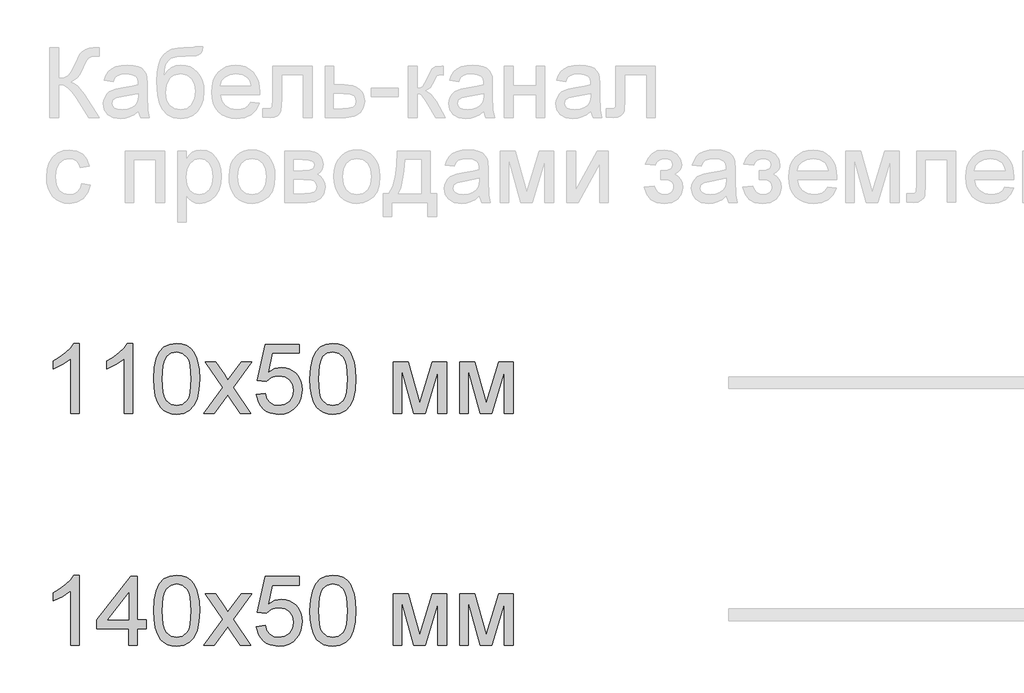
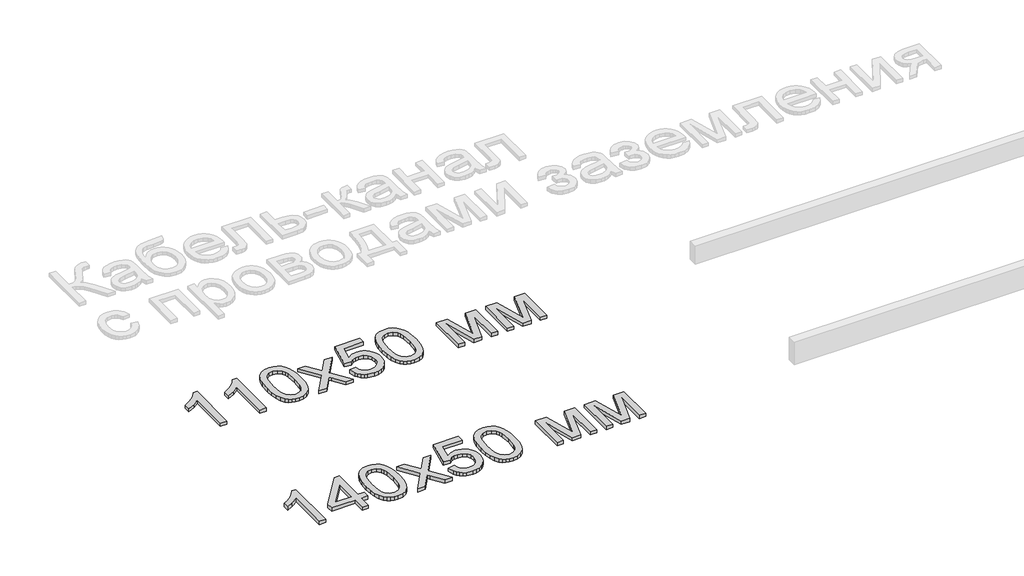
# One storey, part 80 of 168: 2 proxies.
"""IFC4 building model written with IfcOpenShell, lengths in millimetres."""

from ifc_helpers import new_model, si_unit, origin, origin_with_axes, place, context, project, spatial, polyline, outline, extrude, element, save

model = new_model("IFC4")

# Units and contexts
model_context = context("Model", 3, world=origin())
ifc_project = project(units=[si_unit("LENGTHUNIT", "METRE", prefix="MILLI")], contexts=[model_context])

# Site, building, storey
site = spatial("IfcSite", under=ifc_project)
building = spatial("IfcBuilding", under=site)
storey = spatial("IfcBuildingStorey", under=building, Name="Этаж 01", Elevation=0.0)

# Proxies
placement = place(None, origin())
element("IfcBuildingElementProxy", 1, Name="300 мм Arial 2", ObjectType="300 мм Arial 2", at=placement, inside=storey, context=model_context, shape_type="SweptSolid", body=[
    extrude(outline(polyline([(905.9577491, -22423.4056816), (868.2866328, -22423.4056816), (868.2866328, -22188.5498158), (832.6020793, -22213.9704617), (792.9444002, -22232.9899609), (792.9444002, -22197.3789837), (822.5313096, -22181.2841464), (848.1634877, -22162.1358886), (868.3694062, -22141.7736202), (881.6775374, -22122.0367511), (905.9577491, -22122.0367511), (905.9577491, -22423.4056816)])), origin_with_axes(), (0.0, 0.0, 1.0), 20.0),
    extrude(outline(polyline([(1136.6933365, -22423.4056816), (1099.0222202, -22423.4056816), (1099.0222202, -22188.5498158), (1063.3376666, -22213.9704617), (1023.6799876, -22232.9899609), (1023.6799876, -22197.3789837), (1053.266897, -22181.2841464), (1078.899075, -22162.1358886), (1099.1049936, -22141.7736202), (1112.4131248, -22122.0367511), (1136.6933365, -22122.0367511), (1136.6933365, -22423.4056816)])), origin_with_axes(), (0.0, 0.0, 1.0), 20.0),
    extrude(outline(polyline([(1226.1622377, -22275.1492375), (1228.9305497, -22226.9107109), (1237.2354858, -22188.4394512), (1250.9942724, -22159.1468474), (1270.1241361, -22138.4442881), (1294.7630327, -22126.1386354), (1325.048918, -22122.0367511), (1348.2622719, -22124.4647723), (1369.0476046, -22131.7488358), (1386.4300289, -22143.6038331), (1399.4346574, -22159.7446556), (1409.2571067, -22180.0333477), (1417.0929932, -22204.3319534), (1422.224947, -22235.1880558), (1423.9355983, -22275.1492375), (1421.1948774, -22323.1118526), (1412.9727148, -22361.4911418), (1399.2967017, -22390.8113368), (1380.1944291, -22411.5966695), (1355.5003502, -22423.9850957), (1325.048918, -22428.1145711), (1304.3003735, -22426.3211464), (1285.9062737, -22420.9408722), (1269.8666187, -22411.9737486), (1256.1814085, -22399.4197755), (1243.0480213, -22376.7260549), (1233.6670304, -22348.4497251), (1228.0384359, -22314.5907859), (1226.1622377, -22275.1492375)]), holes=[polyline([(1263.833354, -22275.0756611), (1268.2479379, -22334.3322535), (1273.7661679, -22354.6002522), (1281.4916898, -22368.6280525), (1301.2101647, -22384.9896042), (1325.048918, -22390.4434548), (1348.8876713, -22384.9712101), (1368.6061462, -22368.5544761), (1376.3316681, -22354.5036831), (1381.8498981, -22334.240283), (1386.264482, -22275.0756611), (1381.9970509, -22217.152641), (1376.6627619, -22196.9513209), (1369.1947574, -22182.5901275), (1349.5130707, -22165.4284325), (1324.6074596, -22159.7078674), (1301.0262237, -22164.7478508), (1282.080301, -22179.8678008), (1274.0972617, -22195.5027856), (1268.3950907, -22216.5824239), (1263.833354, -22275.0756611)])]), origin_with_axes(), (0.0, 0.0, 1.0), 20.0),
    extrude(outline(polyline([(1442.7711565, -22423.4056816), (1523.263737, -22312.1581662), (1447.480046, -22202.0878733), (1492.8031078, -22202.0878733), (1529.3705781, -22255.0628806), (1546.4403027, -22280.0788562), (1561.2291589, -22259.6246173), (1602.8734008, -22202.0878733), (1648.1964626, -22202.0878733), (1568.5867988, -22312.1581662), (1645.2534066, -22423.4056816), (1599.9303448, -22423.4056816), (1553.7979426, -22356.5247348), (1545.3366567, -22344.3110526), (1488.0942183, -22423.4056816), (1442.7711565, -22423.4056816)])), origin_with_axes(), (0.0, 0.0, 1.0), 20.0),
    extrude(outline(polyline([(1668.7978543, -22343.3545594), (1706.4689706, -22338.6456699), (1713.3851521, -22361.2612155), (1725.4516816, -22377.4572204), (1742.6133766, -22387.1968962), (1764.815055, -22390.4434548), (1791.8175935, -22385.9277033), (1812.0511032, -22372.3804488), (1824.6878498, -22351.3651899), (1828.9000986, -22324.4454249), (1824.9545642, -22299.0983554), (1813.117961, -22279.7109743), (1793.2983185, -22267.4053215), (1765.4036662, -22263.3034373), (1747.1291281, -22264.9405121), (1732.3310749, -22269.8517368), (1711.1778601, -22286.847885), (1673.5067438, -22282.1389954), (1706.4689706, -22126.7456407), (1852.4445463, -22126.7456407), (1852.4445463, -22164.416757), (1736.9295998, -22164.416757), (1720.8163684, -22247.4109351), (1747.7269364, -22231.0769745), (1775.9250913, -22225.632321), (1794.2709065, -22227.3199796), (1811.1222012, -22232.3829556), (1826.4789752, -22240.8212488), (1840.3412286, -22252.6348594), (1851.8168476, -22267.1018189), (1860.0137183, -22283.5001588), (1864.9318408, -22301.8298792), (1866.5712149, -22322.0909801), (1860.6667089, -22359.7620964), (1853.2860764, -22376.5559095), (1842.9531908, -22391.9885592), (1827.2998119, -22407.7936894), (1809.0344709, -22419.0830681), (1788.1571676, -22425.8566954), (1764.6679022, -22428.1145711), (1727.6681706, -22422.3112326), (1711.9894998, -22415.0570595), (1698.1916257, -22404.9012172), (1686.7114082, -22392.3495434), (1677.9857071, -22377.9078758), (1668.7978543, -22343.3545594)])), origin_with_axes(), (0.0, 0.0, 1.0), 20.0),
    extrude(outline(polyline([(1899.5334417, -22275.1492375), (1902.3017537, -22226.9107109), (1910.6066897, -22188.4394512), (1924.3654763, -22159.1468474), (1943.4953401, -22138.4442881), (1968.1342367, -22126.1386354), (1998.420122, -22122.0367511), (2021.6334759, -22124.4647723), (2042.4188086, -22131.7488358), (2059.8012329, -22143.6038331), (2072.8058614, -22159.7446556), (2082.6283107, -22180.0333477), (2090.4641972, -22204.3319534), (2095.596151, -22235.1880558), (2097.3068023, -22275.1492375), (2094.5660814, -22323.1118526), (2086.3439188, -22361.4911418), (2072.6679056, -22390.8113368), (2053.565633, -22411.5966695), (2028.8715541, -22423.9850957), (1998.420122, -22428.1145711), (1977.6715774, -22426.3211464), (1959.2774777, -22420.9408722), (1943.2378227, -22411.9737486), (1929.5526125, -22399.4197755), (1916.4192252, -22376.7260549), (1907.0382344, -22348.4497251), (1901.4096398, -22314.5907859), (1899.5334417, -22275.1492375)]), holes=[polyline([(1937.204558, -22275.0756611), (1941.6191419, -22334.3322535), (1947.1373718, -22354.6002522), (1954.8628937, -22368.6280525), (1974.5813687, -22384.9896042), (1998.420122, -22390.4434548), (2022.2588753, -22384.9712101), (2041.9773502, -22368.5544761), (2049.7028721, -22354.5036831), (2055.221102, -22334.240283), (2059.635686, -22275.0756611), (2055.3682548, -22217.152641), (2050.0339659, -22196.9513209), (2042.5659614, -22182.5901275), (2022.8842747, -22165.4284325), (1997.9786636, -22159.7078674), (1974.3974277, -22164.7478508), (1955.4515049, -22179.8678008), (1947.4684656, -22195.5027856), (1941.7662947, -22216.5824239), (1937.204558, -22275.0756611)])]), origin_with_axes(), (0.0, 0.0, 1.0), 20.0),
    extrude(outline(polyline([(2257.4090466, -22202.0878733), (2322.2298541, -22202.0878733), (2372.1882291, -22379.2598421), (2426.0461532, -22202.0878733), (2488.144634, -22202.0878733), (2488.144634, -22423.4056816), (2450.4735176, -22423.4056816), (2450.4735176, -22245.2036431), (2396.321288, -22423.4056816), (2346.8779478, -22423.4056816), (2295.0801629, -22236.6687808), (2295.0801629, -22423.4056816), (2257.4090466, -22423.4056816), (2257.4090466, -22202.0878733)])), origin_with_axes(), (0.0, 0.0, 1.0), 20.0),
    extrude(outline(polyline([(2544.6513084, -22202.0878733), (2609.472116, -22202.0878733), (2659.4304909, -22379.2598421), (2713.288415, -22202.0878733), (2775.3868958, -22202.0878733), (2775.3868958, -22423.4056816), (2737.7157795, -22423.4056816), (2737.7157795, -22245.2036431), (2683.5635498, -22423.4056816), (2634.1202096, -22423.4056816), (2582.3224247, -22236.6687808), (2582.3224247, -22423.4056816), (2544.6513084, -22423.4056816), (2544.6513084, -22202.0878733)])), origin_with_axes(), (0.0, 0.0, 1.0), 20.0),
])
element("IfcBuildingElementProxy", 2, Name="300 мм Arial 2", ObjectType="300 мм Arial 2", at=placement, inside=storey, context=model_context, shape_type="SweptSolid", body=[
    extrude(outline(polyline([(905.9577491, -23423.4056816), (868.2866328, -23423.4056816), (868.2866328, -23188.5498158), (832.6020793, -23213.9704617), (792.9444002, -23232.9899609), (792.9444002, -23197.3789837), (822.5313096, -23181.2841464), (848.1634877, -23162.1358886), (868.3694062, -23141.7736202), (881.6775374, -23122.0367511), (905.9577491, -23122.0367511), (905.9577491, -23423.4056816)])), origin_with_axes(), (0.0, 0.0, 1.0), 20.0),
    extrude(outline(polyline([(1117.8577783, -23423.4056816), (1117.8577783, -23352.7723385), (981.2999817, -23352.7723385), (981.2999817, -23315.1012222), (1127.2755574, -23126.7456407), (1155.5288946, -23126.7456407), (1155.5288946, -23315.1012222), (1193.2000109, -23315.1012222), (1193.2000109, -23352.7723385), (1155.5288946, -23352.7723385), (1155.5288946, -23423.4056816), (1117.8577783, -23423.4056816)]), holes=[polyline([(1117.8577783, -23315.1012222), (1117.8577783, -23198.7033589), (1027.6531131, -23315.1012222), (1117.8577783, -23315.1012222)])]), origin_with_axes(), (0.0, 0.0, 1.0), 20.0),
    extrude(outline(polyline([(1226.1622377, -23275.1492375), (1228.9305497, -23226.9107109), (1237.2354858, -23188.4394512), (1250.9942724, -23159.1468474), (1270.1241361, -23138.4442881), (1294.7630327, -23126.1386354), (1325.048918, -23122.0367511), (1348.2622719, -23124.4647723), (1369.0476046, -23131.7488358), (1386.4300289, -23143.6038331), (1399.4346574, -23159.7446556), (1409.2571067, -23180.0333477), (1417.0929932, -23204.3319534), (1422.224947, -23235.1880558), (1423.9355983, -23275.1492375), (1421.1948774, -23323.1118526), (1412.9727148, -23361.4911418), (1399.2967017, -23390.8113368), (1380.1944291, -23411.5966695), (1355.5003502, -23423.9850957), (1325.048918, -23428.1145711), (1304.3003735, -23426.3211464), (1285.9062737, -23420.9408722), (1269.8666187, -23411.9737486), (1256.1814085, -23399.4197755), (1243.0480213, -23376.7260549), (1233.6670304, -23348.4497251), (1228.0384359, -23314.5907859), (1226.1622377, -23275.1492375)]), holes=[polyline([(1263.833354, -23275.0756611), (1268.2479379, -23334.3322535), (1273.7661679, -23354.6002522), (1281.4916898, -23368.6280525), (1301.2101647, -23384.9896042), (1325.048918, -23390.4434548), (1348.8876713, -23384.9712101), (1368.6061462, -23368.5544761), (1376.3316681, -23354.5036831), (1381.8498981, -23334.240283), (1386.264482, -23275.0756611), (1381.9970509, -23217.152641), (1376.6627619, -23196.9513209), (1369.1947574, -23182.5901275), (1349.5130707, -23165.4284325), (1324.6074596, -23159.7078674), (1301.0262237, -23164.7478508), (1282.080301, -23179.8678008), (1274.0972617, -23195.5027856), (1268.3950907, -23216.5824239), (1263.833354, -23275.0756611)])]), origin_with_axes(), (0.0, 0.0, 1.0), 20.0),
    extrude(outline(polyline([(1442.7711565, -23423.4056816), (1523.263737, -23312.1581662), (1447.480046, -23202.0878733), (1492.8031078, -23202.0878733), (1529.3705781, -23255.0628806), (1546.4403027, -23280.0788562), (1561.2291589, -23259.6246173), (1602.8734008, -23202.0878733), (1648.1964626, -23202.0878733), (1568.5867988, -23312.1581662), (1645.2534066, -23423.4056816), (1599.9303448, -23423.4056816), (1553.7979426, -23356.5247348), (1545.3366567, -23344.3110526), (1488.0942183, -23423.4056816), (1442.7711565, -23423.4056816)])), origin_with_axes(), (0.0, 0.0, 1.0), 20.0),
    extrude(outline(polyline([(1668.7978543, -23343.3545594), (1706.4689706, -23338.6456699), (1713.3851521, -23361.2612155), (1725.4516816, -23377.4572204), (1742.6133766, -23387.1968962), (1764.815055, -23390.4434548), (1791.8175935, -23385.9277033), (1812.0511032, -23372.3804488), (1824.6878498, -23351.3651899), (1828.9000986, -23324.4454249), (1824.9545642, -23299.0983554), (1813.117961, -23279.7109743), (1793.2983185, -23267.4053215), (1765.4036662, -23263.3034373), (1747.1291281, -23264.9405121), (1732.3310749, -23269.8517368), (1711.1778601, -23286.847885), (1673.5067438, -23282.1389954), (1706.4689706, -23126.7456407), (1852.4445463, -23126.7456407), (1852.4445463, -23164.416757), (1736.9295998, -23164.416757), (1720.8163684, -23247.4109351), (1747.7269364, -23231.0769745), (1775.9250913, -23225.632321), (1794.2709065, -23227.3199796), (1811.1222012, -23232.3829556), (1826.4789752, -23240.8212488), (1840.3412286, -23252.6348594), (1851.8168476, -23267.1018189), (1860.0137183, -23283.5001588), (1864.9318408, -23301.8298792), (1866.5712149, -23322.0909801), (1860.6667089, -23359.7620964), (1853.2860764, -23376.5559095), (1842.9531908, -23391.9885592), (1827.2998119, -23407.7936894), (1809.0344709, -23419.0830681), (1788.1571676, -23425.8566954), (1764.6679022, -23428.1145711), (1727.6681706, -23422.3112326), (1711.9894998, -23415.0570595), (1698.1916257, -23404.9012172), (1686.7114082, -23392.3495434), (1677.9857071, -23377.9078758), (1668.7978543, -23343.3545594)])), origin_with_axes(), (0.0, 0.0, 1.0), 20.0),
    extrude(outline(polyline([(1899.5334417, -23275.1492375), (1902.3017537, -23226.9107109), (1910.6066897, -23188.4394512), (1924.3654763, -23159.1468474), (1943.4953401, -23138.4442881), (1968.1342367, -23126.1386354), (1998.420122, -23122.0367511), (2021.6334759, -23124.4647723), (2042.4188086, -23131.7488358), (2059.8012329, -23143.6038331), (2072.8058614, -23159.7446556), (2082.6283107, -23180.0333477), (2090.4641972, -23204.3319534), (2095.596151, -23235.1880558), (2097.3068023, -23275.1492375), (2094.5660814, -23323.1118526), (2086.3439188, -23361.4911418), (2072.6679056, -23390.8113368), (2053.565633, -23411.5966695), (2028.8715541, -23423.9850957), (1998.420122, -23428.1145711), (1977.6715774, -23426.3211464), (1959.2774777, -23420.9408722), (1943.2378227, -23411.9737486), (1929.5526125, -23399.4197755), (1916.4192252, -23376.7260549), (1907.0382344, -23348.4497251), (1901.4096398, -23314.5907859), (1899.5334417, -23275.1492375)]), holes=[polyline([(1937.204558, -23275.0756611), (1941.6191419, -23334.3322535), (1947.1373718, -23354.6002522), (1954.8628937, -23368.6280525), (1974.5813687, -23384.9896042), (1998.420122, -23390.4434548), (2022.2588753, -23384.9712101), (2041.9773502, -23368.5544761), (2049.7028721, -23354.5036831), (2055.221102, -23334.240283), (2059.635686, -23275.0756611), (2055.3682548, -23217.152641), (2050.0339659, -23196.9513209), (2042.5659614, -23182.5901275), (2022.8842747, -23165.4284325), (1997.9786636, -23159.7078674), (1974.3974277, -23164.7478508), (1955.4515049, -23179.8678008), (1947.4684656, -23195.5027856), (1941.7662947, -23216.5824239), (1937.204558, -23275.0756611)])]), origin_with_axes(), (0.0, 0.0, 1.0), 20.0),
    extrude(outline(polyline([(2257.4090466, -23202.0878733), (2322.2298541, -23202.0878733), (2372.1882291, -23379.2598421), (2426.0461532, -23202.0878733), (2488.144634, -23202.0878733), (2488.144634, -23423.4056816), (2450.4735176, -23423.4056816), (2450.4735176, -23245.2036431), (2396.321288, -23423.4056816), (2346.8779478, -23423.4056816), (2295.0801629, -23236.6687808), (2295.0801629, -23423.4056816), (2257.4090466, -23423.4056816), (2257.4090466, -23202.0878733)])), origin_with_axes(), (0.0, 0.0, 1.0), 20.0),
    extrude(outline(polyline([(2544.6513084, -23202.0878733), (2609.472116, -23202.0878733), (2659.4304909, -23379.2598421), (2713.288415, -23202.0878733), (2775.3868958, -23202.0878733), (2775.3868958, -23423.4056816), (2737.7157795, -23423.4056816), (2737.7157795, -23245.2036431), (2683.5635498, -23423.4056816), (2634.1202096, -23423.4056816), (2582.3224247, -23236.6687808), (2582.3224247, -23423.4056816), (2544.6513084, -23423.4056816), (2544.6513084, -23202.0878733)])), origin_with_axes(), (0.0, 0.0, 1.0), 20.0),
])

save(model, "model.ifc")
